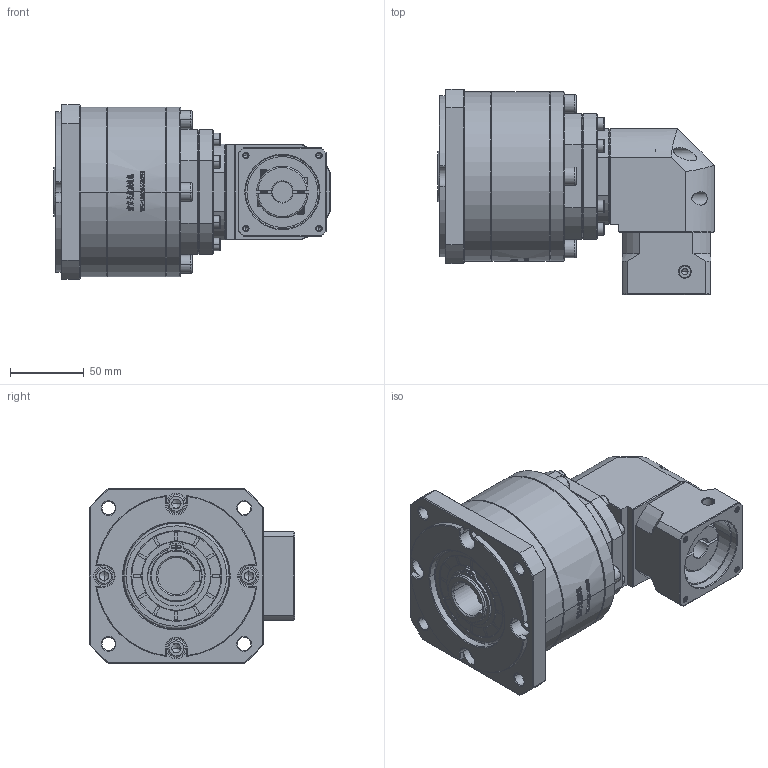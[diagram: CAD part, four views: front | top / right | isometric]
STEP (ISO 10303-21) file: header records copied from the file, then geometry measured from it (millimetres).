
FILE_DESCRIPTION (( 'STEP AP214' ), '1' );
FILE_NAME ('ZFR120A-K25-L3-14-50-70-M4.step', '2023-03-08T14:56:21', ( '' ), ( 'Microsoft' ), 'SwSTEP 2.0', 'SolidWorks 2016', '' );
FILE_SCHEMA (( 'AUTOMOTIVE_DESIGN' ));
Length unit declared in the file: millimetre
Products named in the file (1): ZFR120A-K25-L3-14-50-70-M4
Bounding box: 187.5 x 139.2 x 118 mm (x, y, z)
Volume: 1422779.1 mm3; surface area: 136538.2 mm2
Topology: 6 solids, 6 shells, 2980 faces, 7892 edges, 5068 vertices
Faces by surface type: plane 1588, bspline 616, cylinder 423, cone 340, torus 13
Entity records: 154437 total; most frequent: CARTESIAN_POINT 53474, ORIENTED_EDGE 15680, DIRECTION 11645, EDGE_CURVE 7840, VERTEX_POINT 5068, LINE 4939, VECTOR 4939, AXIS2_PLACEMENT_3D 3353
